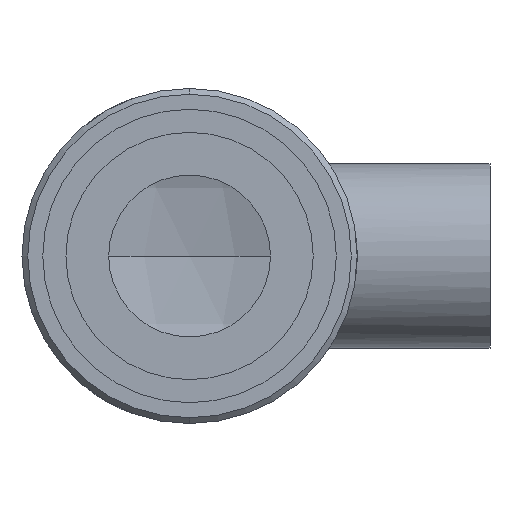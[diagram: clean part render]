
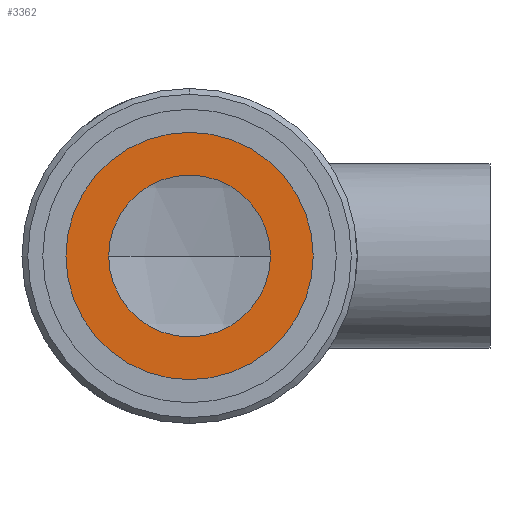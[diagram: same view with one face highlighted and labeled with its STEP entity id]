
A CAD part, front view. The second image highlights one B-rep face of the part: STEP entity #3362.
In plain terms, the highlighted planar face has unit normal (0, -1, 0).
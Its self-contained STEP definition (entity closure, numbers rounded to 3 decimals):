
#85 = CARTESIAN_POINT ( 'NONE',  ( 0., -108.55, 7. ) ) ;
#114 = ORIENTED_EDGE ( 'NONE', *, *, #3210, .F. ) ;
#254 = EDGE_CURVE ( 'NONE', #2892, #2919, #2110, .T. ) ;
#288 = CARTESIAN_POINT ( 'NONE',  ( -11.5, -108.55, 0. ) ) ;
#336 = DIRECTION ( 'NONE',  ( 0., 1., 0. ) ) ;
#350 = CIRCLE ( 'NONE', #1398, 11.5 ) ;
#392 = DIRECTION ( 'NONE',  ( 0., 0., 1. ) ) ;
#540 = DIRECTION ( 'NONE',  ( 0., -1., 0. ) ) ;
#960 = EDGE_LOOP ( 'NONE', ( #1851, #2582 ) ) ;
#1027 = DIRECTION ( 'NONE',  ( 0., 1., 0. ) ) ;
#1102 = CARTESIAN_POINT ( 'NONE',  ( 0., -108.55, 11.5 ) ) ;
#1129 = CARTESIAN_POINT ( 'NONE',  ( 0., -108.55, -11.5 ) ) ;
#1307 = DIRECTION ( 'NONE',  ( 0., 0., 1. ) ) ;
#1371 = EDGE_CURVE ( 'NONE', #2919, #2892, #2810, .T. ) ;
#1398 = AXIS2_PLACEMENT_3D ( 'NONE', #2578, #1027, #2826 ) ;
#1422 = CARTESIAN_POINT ( 'NONE',  ( 0., -108.55, -7. ) ) ;
#1453 = EDGE_LOOP ( 'NONE', ( #114, #1912 ) ) ;
#1570 = VERTEX_POINT ( 'NONE', #1102 ) ;
#1686 = CARTESIAN_POINT ( 'NONE',  ( 0., -108.55, 0. ) ) ;
#1825 = AXIS2_PLACEMENT_3D ( 'NONE', #288, #540, #2379 ) ;
#1851 = ORIENTED_EDGE ( 'NONE', *, *, #254, .T. ) ;
#1858 = PLANE ( 'NONE',  #1825 ) ;
#1859 = CARTESIAN_POINT ( 'NONE',  ( 0., -108.55, 0. ) ) ;
#1912 = ORIENTED_EDGE ( 'NONE', *, *, #2867, .F. ) ;
#1913 = CARTESIAN_POINT ( 'NONE',  ( 0., -108.55, 0. ) ) ;
#2097 = DIRECTION ( 'NONE',  ( 0., 1., 0. ) ) ;
#2110 = CIRCLE ( 'NONE', #2197, 7. ) ;
#2175 = DIRECTION ( 'NONE',  ( 0., 0., 1. ) ) ;
#2197 = AXIS2_PLACEMENT_3D ( 'NONE', #1859, #2097, #1307 ) ;
#2202 = CIRCLE ( 'NONE', #3192, 11.5 ) ;
#2295 = AXIS2_PLACEMENT_3D ( 'NONE', #1686, #2998, #392 ) ;
#2379 = DIRECTION ( 'NONE',  ( 0., 0., -1. ) ) ;
#2578 = CARTESIAN_POINT ( 'NONE',  ( 0., -108.55, 0. ) ) ;
#2582 = ORIENTED_EDGE ( 'NONE', *, *, #1371, .T. ) ;
#2647 = FACE_BOUND ( 'NONE', #960, .T. ) ;
#2723 = FACE_OUTER_BOUND ( 'NONE', #1453, .T. ) ;
#2810 = CIRCLE ( 'NONE', #2295, 7. ) ;
#2826 = DIRECTION ( 'NONE',  ( 0., 0., 1. ) ) ;
#2861 = VERTEX_POINT ( 'NONE', #1129 ) ;
#2867 = EDGE_CURVE ( 'NONE', #2861, #1570, #2202, .T. ) ;
#2892 = VERTEX_POINT ( 'NONE', #85 ) ;
#2919 = VERTEX_POINT ( 'NONE', #1422 ) ;
#2998 = DIRECTION ( 'NONE',  ( 0., 1., 0. ) ) ;
#3192 = AXIS2_PLACEMENT_3D ( 'NONE', #1913, #336, #2175 ) ;
#3210 = EDGE_CURVE ( 'NONE', #1570, #2861, #350, .T. ) ;
#3362 = ADVANCED_FACE ( 'NONE', ( #2647, #2723 ), #1858, .T. ) ;
